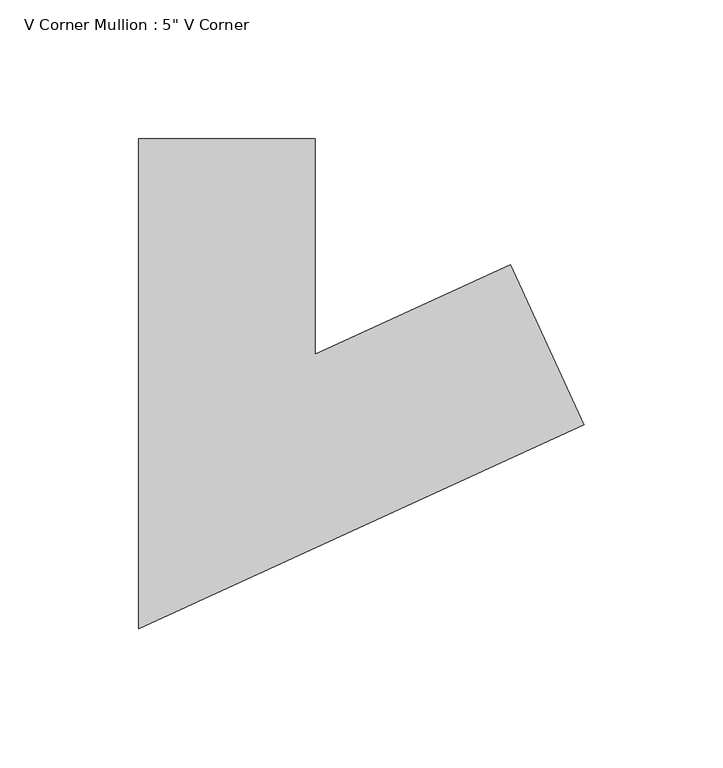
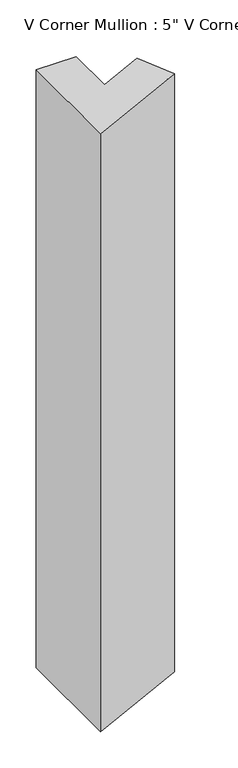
"""IFC4 building model written with IfcOpenShell, lengths in millimetres: member geometry."""

from ifc_helpers import new_model, si_unit, frame, origin, place, context, project, spatial, polyline, outline, extrude, source, transform, mapped, element, save


def member_42eafe6b(model_context):
    return source(origin(), model_context, "Body", "SweptSolid", [
        extrude(outline(polyline([(87.9205542, -39.5195451), (-72.5228811, -112.9476953), (-72.5228811, 63.5), (-9.0228811, 63.5), (-9.0228811, -14.0523047), (61.49523, 18.2208415), (87.9205542, -39.5195451)])), frame((0.0, 0.0, -1003.3), z_axis=(0.0, 0.0, 1.0), x_axis=(1.0, 0.0, 0.0)), (0.0, 0.0, 1.0), 1003.3),
    ])


if __name__ == "__main__":
    model = new_model("IFC4")
    model_context = context("Model", 3, world=origin())
    ifc_project = project(units=[si_unit("LENGTHUNIT", "METRE", prefix="MILLI")], contexts=[model_context])
    site = spatial("IfcSite", under=ifc_project)
    building = spatial("IfcBuilding", under=site)
    placement = place(None, origin())
    member_shape = member_42eafe6b(model_context)
    element("IfcMember", 1, ObjectType="V Corner Mullion : 5\" V Corner", at=placement, inside=building, context=model_context, shape_type="MappedRepresentation", body=[
        mapped(member_shape, transform((0.0, 0.0, 0.0), x_axis=(1.0, 0.0, 0.0), y_axis=(0.0, 1.0, 0.0), z_axis=(0.0, 0.0, 1.0))),
    ])
    save(model, "model.ifc")
